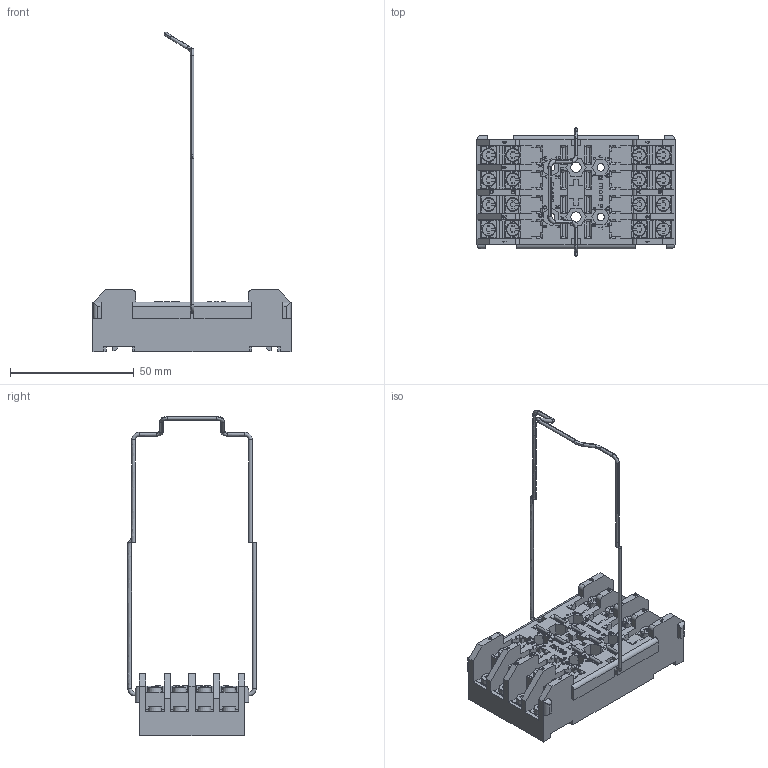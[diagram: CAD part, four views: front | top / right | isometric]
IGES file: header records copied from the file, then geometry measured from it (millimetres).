
Global section: file name: No Iges File Name specified; native system: Autodesk Inventor 2010; preprocessor: AutoDesk Inventor Iges Exporter R2010; author: cg; date: 20101011.175301; units: millimetre
Bounding box: 80 x 51.8 x 129 mm (x, y, z)
Volume: 50986.4 mm3; surface area: 36093.2 mm2
Topology: 35 solids, 39 shells, 2891 faces, 7983 edges, 5264 vertices
Faces by surface type: plane 2033, bspline 575, cylinder 163, revolution 80, cone 32, torus 8
